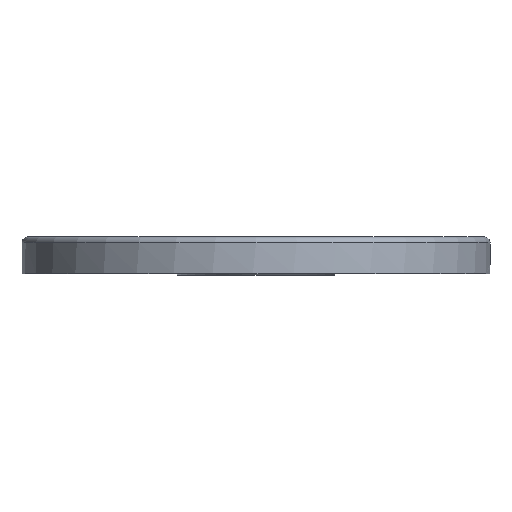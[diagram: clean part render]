
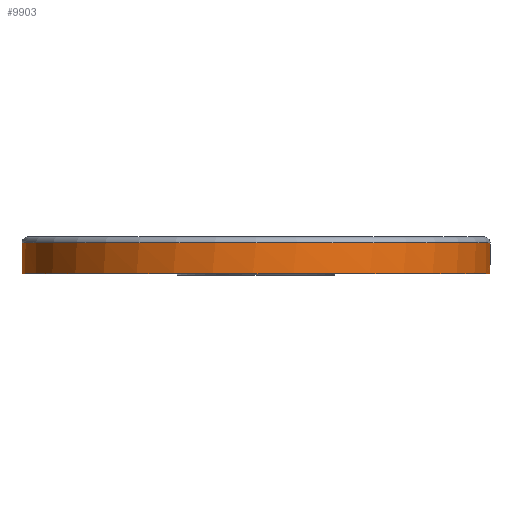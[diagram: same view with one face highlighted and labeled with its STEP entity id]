
A CAD part, left-side view. The second image highlights one B-rep face of the part: STEP entity #9903.
In plain terms, the highlighted cylindrical face has radius 76.5 mm (diameter 153 mm), a full revolution.
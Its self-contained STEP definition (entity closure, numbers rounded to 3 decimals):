
#108=CYLINDRICAL_SURFACE('',#10156,76.5);
#116=CIRCLE('',#10152,76.5);
#117=CIRCLE('',#10153,76.5);
#120=CIRCLE('',#10157,76.5);
#846=B_SPLINE_CURVE_WITH_KNOTS('',3,(#18956,#18957,#18958,#18959,#18960,
#18961,#18962,#18963,#18964,#18965),.UNSPECIFIED.,.F.,.F.,(4,2,2,2,4),(0.226,
0.283,0.339,0.396,0.452),
 .UNSPECIFIED.);
#847=B_SPLINE_CURVE_WITH_KNOTS('',3,(#18966,#18967,#18968,#18969,#18970,
#18971,#18972,#18973,#18974,#18975),.UNSPECIFIED.,.F.,.F.,(4,2,2,2,4),(0.,
0.057,0.113,0.17,0.226),
 .UNSPECIFIED.);
#1761=FACE_OUTER_BOUND('',#2328,.T.);
#2328=EDGE_LOOP('',(#8632,#8633,#8634,#8635,#8636,#8637,#8638,#8639,#8640));
#3121=LINE('',#18925,#3832);
#3125=LINE('',#18934,#3836);
#3127=LINE('',#18986,#3838);
#3832=VECTOR('',#11290,10.);
#3836=VECTOR('',#11296,10.);
#3838=VECTOR('',#11314,76.5);
#4788=VERTEX_POINT('',#18922);
#4789=VERTEX_POINT('',#18924);
#4792=VERTEX_POINT('',#18931);
#4793=VERTEX_POINT('',#18933);
#4794=VERTEX_POINT('',#18955);
#4795=VERTEX_POINT('',#18977);
#4797=VERTEX_POINT('',#18984);
#6224=EDGE_CURVE('',#4789,#4788,#3121,.T.);
#6228=EDGE_CURVE('',#4793,#4792,#3125,.T.);
#6231=EDGE_CURVE('',#4794,#4793,#846,.T.);
#6232=EDGE_CURVE('',#4788,#4794,#847,.T.);
#6233=EDGE_CURVE('',#4789,#4795,#116,.T.);
#6234=EDGE_CURVE('',#4795,#4792,#117,.T.);
#6237=EDGE_CURVE('',#4797,#4797,#120,.T.);
#6238=EDGE_CURVE('',#4797,#4795,#3127,.T.);
#8632=ORIENTED_EDGE('',*,*,#6237,.F.);
#8633=ORIENTED_EDGE('',*,*,#6238,.T.);
#8634=ORIENTED_EDGE('',*,*,#6233,.F.);
#8635=ORIENTED_EDGE('',*,*,#6224,.T.);
#8636=ORIENTED_EDGE('',*,*,#6232,.T.);
#8637=ORIENTED_EDGE('',*,*,#6231,.T.);
#8638=ORIENTED_EDGE('',*,*,#6228,.T.);
#8639=ORIENTED_EDGE('',*,*,#6234,.F.);
#8640=ORIENTED_EDGE('',*,*,#6238,.F.);
#9903=ADVANCED_FACE('',(#1761),#108,.T.);
#10152=AXIS2_PLACEMENT_3D('',#18978,#11302,#11303);
#10153=AXIS2_PLACEMENT_3D('',#18979,#11304,#11305);
#10156=AXIS2_PLACEMENT_3D('',#18983,#11310,#11311);
#10157=AXIS2_PLACEMENT_3D('',#18985,#11312,#11313);
#11290=DIRECTION('',(0.,0.,1.));
#11296=DIRECTION('',(0.,0.,-1.));
#11302=DIRECTION('center_axis',(0.,0.,-1.));
#11303=DIRECTION('ref_axis',(-1.,0.,0.));
#11304=DIRECTION('center_axis',(0.,0.,-1.));
#11305=DIRECTION('ref_axis',(-1.,0.,0.));
#11310=DIRECTION('center_axis',(0.,0.,1.));
#11311=DIRECTION('ref_axis',(-1.,0.,0.));
#11312=DIRECTION('center_axis',(0.,0.,1.));
#11313=DIRECTION('ref_axis',(-1.,0.,0.));
#11314=DIRECTION('',(0.,0.,-1.));
#18922=CARTESIAN_POINT('',(-1.5,-76.485,1.499));
#18924=CARTESIAN_POINT('',(-1.5,-76.485,0.));
#18925=CARTESIAN_POINT('',(-1.5,-76.485,0.));
#18931=CARTESIAN_POINT('',(1.5,-76.485,0.));
#18933=CARTESIAN_POINT('',(1.5,-76.485,1.499));
#18934=CARTESIAN_POINT('',(1.5,-76.485,0.));
#18955=CARTESIAN_POINT('',(0.,-76.5,2.999));
#18956=CARTESIAN_POINT('Ctrl Pts',(0.,-76.5,2.999));
#18957=CARTESIAN_POINT('Ctrl Pts',(0.188,-76.5,2.999));
#18958=CARTESIAN_POINT('Ctrl Pts',(0.389,-76.499,
2.962));
#18959=CARTESIAN_POINT('Ctrl Pts',(0.759,-76.496,
2.809));
#18960=CARTESIAN_POINT('Ctrl Pts',(0.927,-76.494,
2.693));
#18961=CARTESIAN_POINT('Ctrl Pts',(1.194,-76.491,2.427));
#18962=CARTESIAN_POINT('Ctrl Pts',(1.309,-76.489,2.258));
#18963=CARTESIAN_POINT('Ctrl Pts',(1.462,-76.486,1.889));
#18964=CARTESIAN_POINT('Ctrl Pts',(1.5,-76.485,1.688));
#18965=CARTESIAN_POINT('Ctrl Pts',(1.5,-76.485,1.499));
#18966=CARTESIAN_POINT('Ctrl Pts',(-1.5,-76.485,
1.499));
#18967=CARTESIAN_POINT('Ctrl Pts',(-1.5,-76.485,
1.688));
#18968=CARTESIAN_POINT('Ctrl Pts',(-1.462,-76.486,
1.889));
#18969=CARTESIAN_POINT('Ctrl Pts',(-1.309,-76.489,
2.258));
#18970=CARTESIAN_POINT('Ctrl Pts',(-1.194,-76.491,
2.427));
#18971=CARTESIAN_POINT('Ctrl Pts',(-0.927,-76.494,
2.693));
#18972=CARTESIAN_POINT('Ctrl Pts',(-0.759,-76.496,
2.809));
#18973=CARTESIAN_POINT('Ctrl Pts',(-0.389,-76.499,
2.962));
#18974=CARTESIAN_POINT('Ctrl Pts',(-0.188,-76.5,2.999));
#18975=CARTESIAN_POINT('Ctrl Pts',(0.,-76.5,2.999));
#18977=CARTESIAN_POINT('',(76.5,0.,0.));
#18978=CARTESIAN_POINT('Origin',(0.,0.,0.));
#18979=CARTESIAN_POINT('Origin',(0.,0.,0.));
#18983=CARTESIAN_POINT('Origin',(0.,0.,0.));
#18984=CARTESIAN_POINT('',(76.5,0.,10.));
#18985=CARTESIAN_POINT('Origin',(0.,0.,10.));
#18986=CARTESIAN_POINT('',(76.5,0.,0.));
